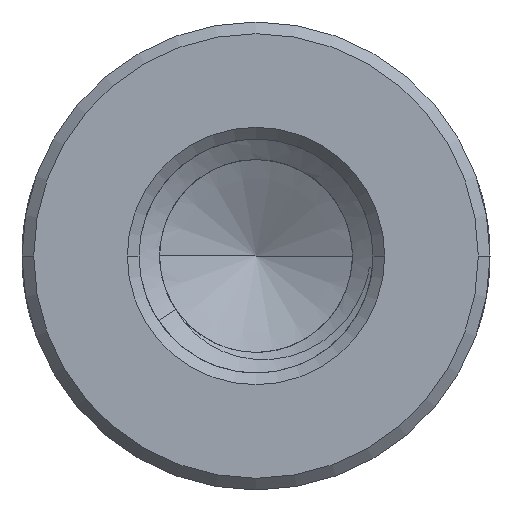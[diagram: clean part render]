
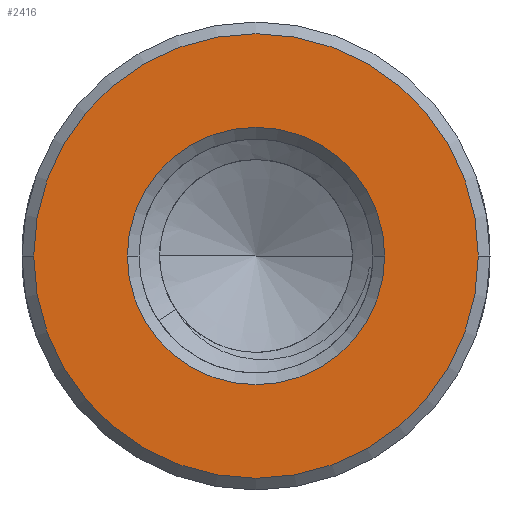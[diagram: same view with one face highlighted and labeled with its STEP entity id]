
A CAD part, front view. The second image highlights one B-rep face of the part: STEP entity #2416.
In plain terms, the highlighted planar face has unit normal (0, -1, 0).
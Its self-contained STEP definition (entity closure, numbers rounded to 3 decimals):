
#1=CARTESIAN_POINT('',(0.,-40.,0.));
#2=DIRECTION('',(0.,-1.,0.));
#3=DIRECTION('',(-1.,0.,0.));
#4=AXIS2_PLACEMENT_3D('',#1,#2,#3);
#6=CARTESIAN_POINT('',(0.,-40.,0.));
#7=DIRECTION('',(0.,-1.,0.));
#8=DIRECTION('',(1.,0.,0.));
#9=AXIS2_PLACEMENT_3D('',#6,#7,#8);
#11=CARTESIAN_POINT('',(0.,-40.,0.));
#12=DIRECTION('',(0.,1.,0.));
#13=DIRECTION('',(-1.,0.,0.));
#14=AXIS2_PLACEMENT_3D('',#11,#12,#13);
#16=CARTESIAN_POINT('',(0.,-40.,0.));
#17=DIRECTION('',(0.,1.,0.));
#18=DIRECTION('',(1.,0.,0.));
#19=AXIS2_PLACEMENT_3D('',#16,#17,#18);
#2257=CARTESIAN_POINT('',(-5.7,-40.,0.));
#2258=CARTESIAN_POINT('',(5.7,-40.,0.));
#2259=VERTEX_POINT('',#2257);
#2260=VERTEX_POINT('',#2258);
#2390=CARTESIAN_POINT('',(-3.3,-40.,0.));
#2391=CARTESIAN_POINT('',(3.3,-40.,0.));
#2392=VERTEX_POINT('',#2390);
#2393=VERTEX_POINT('',#2391);
#2399=CARTESIAN_POINT('',(0.,-40.,0.));
#2400=DIRECTION('',(0.,1.,0.));
#2401=DIRECTION('',(1.,0.,0.));
#2402=AXIS2_PLACEMENT_3D('',#2399,#2400,#2401);
#2403=PLANE('',#2402);
#2405=ORIENTED_EDGE('',*,*,#2404,.F.);
#2407=ORIENTED_EDGE('',*,*,#2406,.F.);
#2408=EDGE_LOOP('',(#2405,#2407));
#2409=FACE_OUTER_BOUND('',#2408,.F.);
#2411=ORIENTED_EDGE('',*,*,#2410,.F.);
#2413=ORIENTED_EDGE('',*,*,#2412,.F.);
#2414=EDGE_LOOP('',(#2411,#2413));
#2415=FACE_BOUND('',#2414,.F.);
#2416=ADVANCED_FACE('',(#2409,#2415),#2403,.F.);
#5=CIRCLE('',#4,5.7);
#10=CIRCLE('',#9,5.7);
#15=CIRCLE('',#14,3.3);
#20=CIRCLE('',#19,3.3);
#2404=EDGE_CURVE('',#2259,#2260,#5,.T.);
#2406=EDGE_CURVE('',#2260,#2259,#10,.T.);
#2410=EDGE_CURVE('',#2392,#2393,#15,.T.);
#2412=EDGE_CURVE('',#2393,#2392,#20,.T.);
